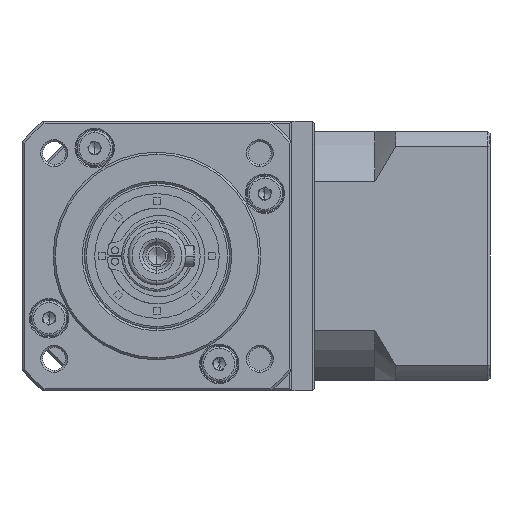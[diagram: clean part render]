
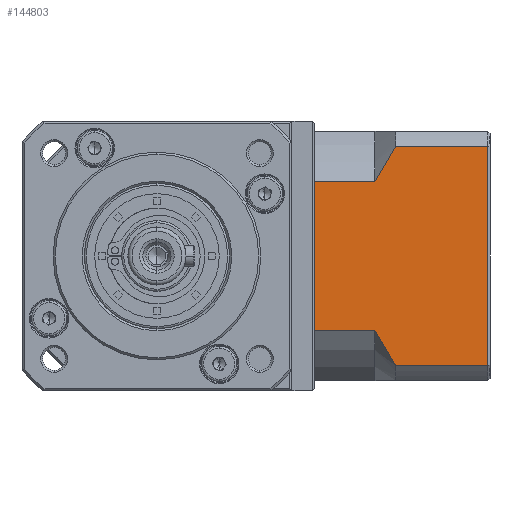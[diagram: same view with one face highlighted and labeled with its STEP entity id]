
A CAD part, left-side view. The second image highlights one B-rep face of the part: STEP entity #144803.
In plain terms, the highlighted planar face has unit normal (-1, 0, 0).
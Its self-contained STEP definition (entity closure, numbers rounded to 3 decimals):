
#204 = CARTESIAN_POINT ( 'NONE',  ( -32.751, -106.401, -135.199 ) ) ;
#1402 = VERTEX_POINT ( 'NONE', #139863 ) ;
#4559 = VERTEX_POINT ( 'NONE', #98795 ) ;
#7180 = VECTOR ( 'NONE', #177389, 1000. ) ;
#14085 = FACE_OUTER_BOUND ( 'NONE', #75063, .T. ) ;
#16155 = VERTEX_POINT ( 'NONE', #118236 ) ;
#23600 = CARTESIAN_POINT ( 'NONE',  ( -32.751, -106.901, -138.741 ) ) ;
#27904 = EDGE_CURVE ( 'NONE', #100405, #117111, #133734, .T. ) ;
#29566 = LINE ( 'NONE', #44670, #179432 ) ;
#30037 = DIRECTION ( 'NONE',  ( 0., 1., 0. ) ) ;
#30134 = CARTESIAN_POINT ( 'NONE',  ( -32.751, -79.201, -90.714 ) ) ;
#32034 = ORIENTED_EDGE ( 'NONE', *, *, #48522, .T. ) ;
#34017 = VERTEX_POINT ( 'NONE', #52789 ) ;
#38194 = DIRECTION ( 'NONE',  ( 0., 1., 0. ) ) ;
#40380 = EDGE_CURVE ( 'NONE', #175473, #117111, #49621, .T. ) ;
#44670 = CARTESIAN_POINT ( 'NONE',  ( -32.751, -79.201, -135.199 ) ) ;
#44766 = DIRECTION ( 'NONE',  ( 0., -1., 0. ) ) ;
#46118 = CARTESIAN_POINT ( 'NONE',  ( -32.751, -64.701, -138.741 ) ) ;
#48522 = EDGE_CURVE ( 'NONE', #1402, #34017, #56950, .T. ) ;
#49621 = LINE ( 'NONE', #104241, #122230 ) ;
#52198 = PLANE ( 'NONE',  #134190 ) ;
#52789 = CARTESIAN_POINT ( 'NONE',  ( -32.751, -84.201, -135.199 ) ) ;
#56950 = B_SPLINE_CURVE_WITH_KNOTS ( 'NONE', 3,
 ( #184259, #122761, #170313, #83420, #184866, #98005 ),
 .UNSPECIFIED., .F., .F.,
 ( 4, 2, 4 ),
 ( 0.1, 0.104, 0.109 ),
 .UNSPECIFIED. ) ;
#70498 = ORIENTED_EDGE ( 'NONE', *, *, #74572, .F. ) ;
#73249 = B_SPLINE_CURVE_WITH_KNOTS ( 'NONE', 3,
 ( #117645, #176003, #168167, #81243, #182774, #95884 ),
 .UNSPECIFIED., .F., .F.,
 ( 4, 2, 4 ),
 ( 0.052, 0.057, 0.062 ),
 .UNSPECIFIED. ) ;
#74572 = EDGE_CURVE ( 'NONE', #100405, #34017, #29566, .T. ) ;
#75063 = EDGE_LOOP ( 'NONE', ( #70498, #92009, #121839, #115265, #84629, #167962, #113912, #32034 ) ) ;
#78281 = LINE ( 'NONE', #30134, #150939 ) ;
#81243 = CARTESIAN_POINT ( 'NONE',  ( -32.751, -80.753, -87.83 ) ) ;
#82157 = VERTEX_POINT ( 'NONE', #153880 ) ;
#83420 = CARTESIAN_POINT ( 'NONE',  ( -32.751, -82.426, -132.456 ) ) ;
#84629 = ORIENTED_EDGE ( 'NONE', *, *, #176837, .F. ) ;
#87317 = EDGE_CURVE ( 'NONE', #4559, #16155, #122884, .T. ) ;
#92009 = ORIENTED_EDGE ( 'NONE', *, *, #27904, .T. ) ;
#95884 = CARTESIAN_POINT ( 'NONE',  ( -32.751, -79.201, -90.714 ) ) ;
#98005 = CARTESIAN_POINT ( 'NONE',  ( -32.751, -84.201, -135.199 ) ) ;
#98795 = CARTESIAN_POINT ( 'NONE',  ( -32.751, -64.701, -90.714 ) ) ;
#100405 = VERTEX_POINT ( 'NONE', #204 ) ;
#103992 = VECTOR ( 'NONE', #182768, 1000. ) ;
#104241 = CARTESIAN_POINT ( 'NONE',  ( -32.751, -79.201, -82.284 ) ) ;
#108706 = EDGE_CURVE ( 'NONE', #1402, #16155, #147151, .T. ) ;
#113912 = ORIENTED_EDGE ( 'NONE', *, *, #108706, .F. ) ;
#115265 = ORIENTED_EDGE ( 'NONE', *, *, #174890, .T. ) ;
#117111 = VERTEX_POINT ( 'NONE', #177483 ) ;
#117645 = CARTESIAN_POINT ( 'NONE',  ( -32.751, -84.201, -82.284 ) ) ;
#118236 = CARTESIAN_POINT ( 'NONE',  ( -32.751, -64.701, -126.769 ) ) ;
#118465 = CARTESIAN_POINT ( 'NONE',  ( -32.751, -106.401, -138.741 ) ) ;
#118809 = DIRECTION ( 'NONE',  ( 0., -1., 0. ) ) ;
#121839 = ORIENTED_EDGE ( 'NONE', *, *, #40380, .F. ) ;
#122230 = VECTOR ( 'NONE', #118809, 1000. ) ;
#122761 = CARTESIAN_POINT ( 'NONE',  ( -32.751, -79.951, -128.226 ) ) ;
#122884 = LINE ( 'NONE', #46118, #7180 ) ;
#124182 = CARTESIAN_POINT ( 'NONE',  ( -32.751, -84.201, -82.284 ) ) ;
#125127 = DIRECTION ( 'NONE',  ( 1., 0., 0. ) ) ;
#129208 = VECTOR ( 'NONE', #133061, 1000. ) ;
#133061 = DIRECTION ( 'NONE',  ( 0., 0., 1. ) ) ;
#133734 = LINE ( 'NONE', #118465, #129208 ) ;
#134190 = AXIS2_PLACEMENT_3D ( 'NONE', #23600, #125127, #38194 ) ;
#139863 = CARTESIAN_POINT ( 'NONE',  ( -32.751, -79.201, -126.769 ) ) ;
#144803 = ADVANCED_FACE ( 'NONE', ( #14085 ), #52198, .F. ) ;
#147151 = LINE ( 'NONE', #168163, #103992 ) ;
#150939 = VECTOR ( 'NONE', #44766, 1000. ) ;
#153880 = CARTESIAN_POINT ( 'NONE',  ( -32.751, -79.201, -90.714 ) ) ;
#167962 = ORIENTED_EDGE ( 'NONE', *, *, #87317, .T. ) ;
#168163 = CARTESIAN_POINT ( 'NONE',  ( -32.751, -79.201, -126.769 ) ) ;
#168167 = CARTESIAN_POINT ( 'NONE',  ( -32.751, -82.428, -85.023 ) ) ;
#170313 = CARTESIAN_POINT ( 'NONE',  ( -32.751, -80.752, -129.651 ) ) ;
#174890 = EDGE_CURVE ( 'NONE', #175473, #82157, #73249, .T. ) ;
#175473 = VERTEX_POINT ( 'NONE', #124182 ) ;
#176003 = CARTESIAN_POINT ( 'NONE',  ( -32.751, -83.302, -83.644 ) ) ;
#176837 = EDGE_CURVE ( 'NONE', #4559, #82157, #78281, .T. ) ;
#177389 = DIRECTION ( 'NONE',  ( 0., 0., -1. ) ) ;
#177483 = CARTESIAN_POINT ( 'NONE',  ( -32.751, -106.401, -82.284 ) ) ;
#179432 = VECTOR ( 'NONE', #30037, 1000. ) ;
#182768 = DIRECTION ( 'NONE',  ( 0., 1., 0. ) ) ;
#182774 = CARTESIAN_POINT ( 'NONE',  ( -32.751, -79.949, -89.262 ) ) ;
#184259 = CARTESIAN_POINT ( 'NONE',  ( -32.751, -79.201, -126.769 ) ) ;
#184866 = CARTESIAN_POINT ( 'NONE',  ( -32.751, -83.3, -133.836 ) ) ;
